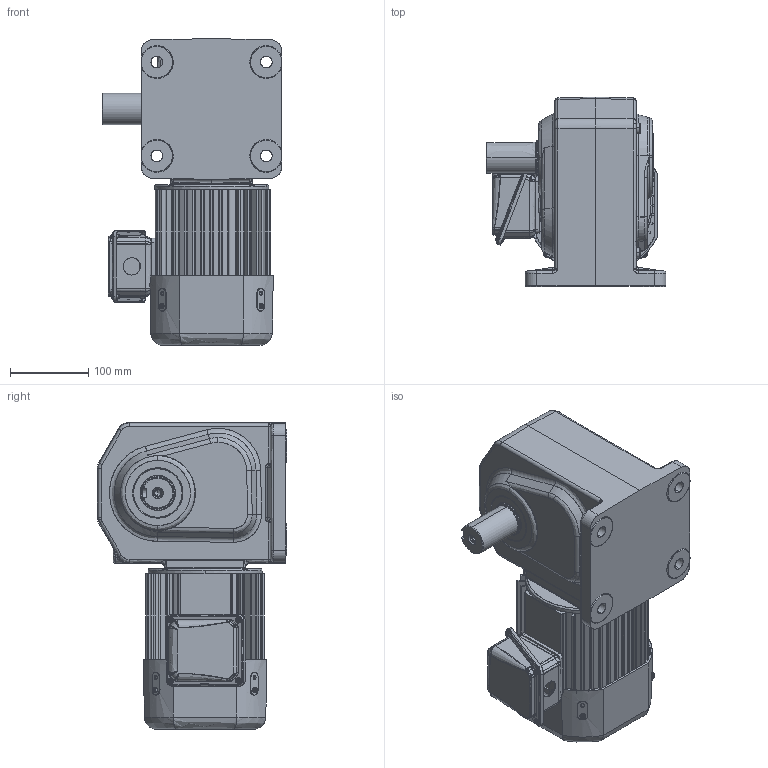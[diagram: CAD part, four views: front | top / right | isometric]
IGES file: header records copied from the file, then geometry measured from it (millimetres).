
Start section: SolidWorks IGES file using analytic representation for surfaces
Global section: file name: \\100.100.100.8\1_共有作業フォルダ\1-5_３Ｄデータ\solidworks\personal-folder\H.Nagayama\HL外形\HL(3D)\igs\TMHL-07-(80~240)A.IGS; native system: SolidWorks 2018; preprocessor: SolidWorks 2018; author: sigma-giken; date: 200326.171918; units: millimetre
Bounding box: 230 x 242.5 x 392.5 mm (x, y, z)
Surface area: 678102.9 mm2 (no closed solid volume)
Topology: 0 solids, 0 shells, 1701 faces, 20799 edges, 20723 vertices
Faces by surface type: revolution 869, bspline 832
